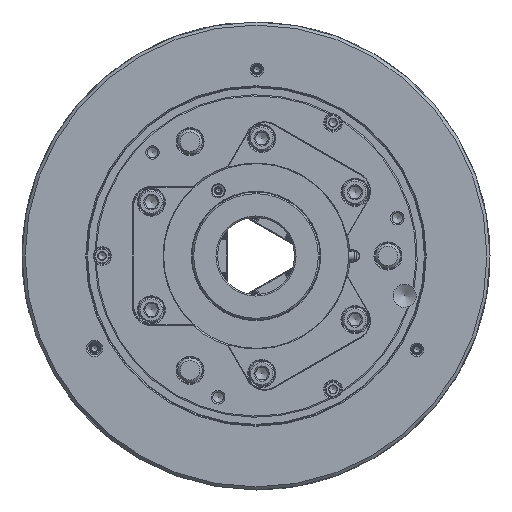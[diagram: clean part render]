
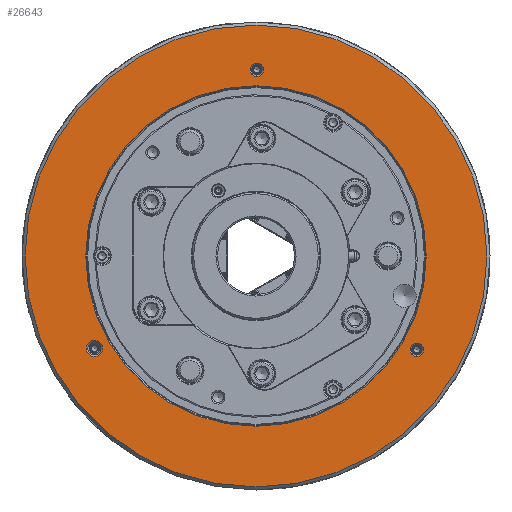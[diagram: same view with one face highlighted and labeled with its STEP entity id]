
A CAD part, left-side view. The second image highlights one B-rep face of the part: STEP entity #26643.
In plain terms, the highlighted planar face has unit normal (-1, 0, 0).
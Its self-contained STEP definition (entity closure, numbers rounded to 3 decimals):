
#2000 = FACE_BOUND ( 'NONE', #3603, .T. ) ;
#3603 = EDGE_LOOP ( 'NONE', ( #66956 ) ) ;
#3960 = AXIS2_PLACEMENT_3D ( 'NONE', #60329, #82567, #22381 ) ;
#6652 = DIRECTION ( 'NONE',  ( 1., 0., 0. ) ) ;
#7988 = DIRECTION ( 'NONE',  ( 1., 0., 0. ) ) ;
#8122 = DIRECTION ( 'NONE',  ( 0., 0., -1. ) ) ;
#10081 = VERTEX_POINT ( 'NONE', #91530 ) ;
#11799 = CARTESIAN_POINT ( 'NONE',  ( -138., 0., -110.6 ) ) ;
#13579 = PLANE ( 'NONE',  #77575 ) ;
#15700 = EDGE_CURVE ( 'NONE', #44959, #44959, #63052, .T. ) ;
#15902 = FACE_BOUND ( 'NONE', #69978, .T. ) ;
#17677 = AXIS2_PLACEMENT_3D ( 'NONE', #31180, #78496, #19766 ) ;
#19766 = DIRECTION ( 'NONE',  ( 0., 0., 1. ) ) ;
#19796 = EDGE_LOOP ( 'NONE', ( #57235 ) ) ;
#21454 = EDGE_CURVE ( 'NONE', #40455, #40455, #58733, .T. ) ;
#22381 = DIRECTION ( 'NONE',  ( 0., 0., -1. ) ) ;
#24223 = CARTESIAN_POINT ( 'NONE',  ( -138., -104.462, -56.633 ) ) ;
#26643 = ADVANCED_FACE ( 'NONE', ( #81188, #15902, #2000, #81680, #88550 ), #13579, .F. ) ;
#28816 = AXIS2_PLACEMENT_3D ( 'NONE', #89576, #6652, #8122 ) ;
#29092 = DIRECTION ( 'NONE',  ( 0., 0., 1. ) ) ;
#30015 = AXIS2_PLACEMENT_3D ( 'NONE', #51296, #96666, #29092 ) ;
#31180 = CARTESIAN_POINT ( 'NONE',  ( -138., -0.538, 120.933 ) ) ;
#34637 = CIRCLE ( 'NONE', #47203, 110.6 ) ;
#36576 = CIRCLE ( 'NONE', #17677, 4.3 ) ;
#37943 = CARTESIAN_POINT ( 'NONE',  ( -138., -0.538, 125.233 ) ) ;
#38319 = EDGE_CURVE ( 'NONE', #43386, #43386, #34637, .T. ) ;
#38873 = ORIENTED_EDGE ( 'NONE', *, *, #38319, .T. ) ;
#39091 = DIRECTION ( 'NONE',  ( 0., 0., -1. ) ) ;
#40455 = VERTEX_POINT ( 'NONE', #84863 ) ;
#42616 = DIRECTION ( 'NONE',  ( 0., 0., -1. ) ) ;
#43386 = VERTEX_POINT ( 'NONE', #11799 ) ;
#44959 = VERTEX_POINT ( 'NONE', #24223 ) ;
#46545 = CIRCLE ( 'NONE', #3960, 150. ) ;
#47147 = EDGE_CURVE ( 'NONE', #67517, #67517, #36576, .T. ) ;
#47203 = AXIS2_PLACEMENT_3D ( 'NONE', #93423, #86032, #42616 ) ;
#51296 = CARTESIAN_POINT ( 'NONE',  ( -138., -104.462, -60.933 ) ) ;
#52454 = ORIENTED_EDGE ( 'NONE', *, *, #74048, .F. ) ;
#57235 = ORIENTED_EDGE ( 'NONE', *, *, #47147, .F. ) ;
#57751 = EDGE_LOOP ( 'NONE', ( #38873 ) ) ;
#58733 = CIRCLE ( 'NONE', #28816, 5.3 ) ;
#60329 = CARTESIAN_POINT ( 'NONE',  ( -138., 0., 0. ) ) ;
#60783 = CARTESIAN_POINT ( 'NONE',  ( -138., -150., 0. ) ) ;
#61359 = EDGE_LOOP ( 'NONE', ( #52454 ) ) ;
#63052 = CIRCLE ( 'NONE', #30015, 4.3 ) ;
#66956 = ORIENTED_EDGE ( 'NONE', *, *, #21454, .T. ) ;
#67517 = VERTEX_POINT ( 'NONE', #37943 ) ;
#69978 = EDGE_LOOP ( 'NONE', ( #80656 ) ) ;
#74048 = EDGE_CURVE ( 'NONE', #10081, #10081, #46545, .T. ) ;
#77575 = AXIS2_PLACEMENT_3D ( 'NONE', #60783, #7988, #39091 ) ;
#78496 = DIRECTION ( 'NONE',  ( -1., 0., 0. ) ) ;
#80656 = ORIENTED_EDGE ( 'NONE', *, *, #15700, .F. ) ;
#81188 = FACE_BOUND ( 'NONE', #19796, .T. ) ;
#81680 = FACE_OUTER_BOUND ( 'NONE', #61359, .T. ) ;
#82567 = DIRECTION ( 'NONE',  ( 1., 0., 0. ) ) ;
#84863 = CARTESIAN_POINT ( 'NONE',  ( -138., 105., -65.3 ) ) ;
#86032 = DIRECTION ( 'NONE',  ( 1., 0., 0. ) ) ;
#88550 = FACE_BOUND ( 'NONE', #57751, .T. ) ;
#89576 = CARTESIAN_POINT ( 'NONE',  ( -138., 105., -60. ) ) ;
#91530 = CARTESIAN_POINT ( 'NONE',  ( -138., 0., -150. ) ) ;
#93423 = CARTESIAN_POINT ( 'NONE',  ( -138., 0., 0. ) ) ;
#96666 = DIRECTION ( 'NONE',  ( -1., 0., 0. ) ) ;
